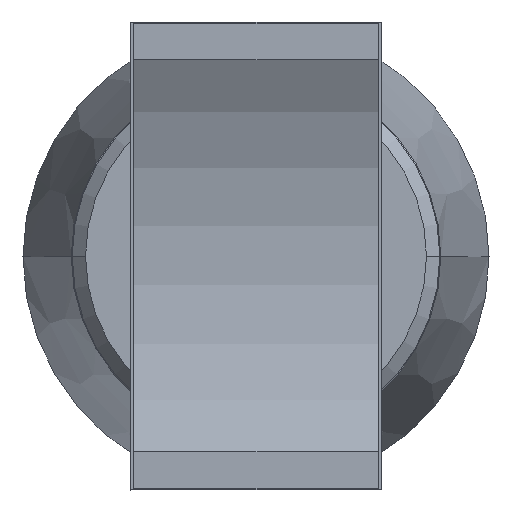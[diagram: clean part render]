
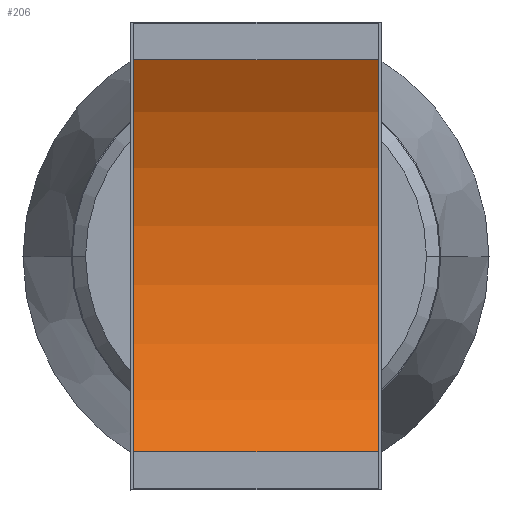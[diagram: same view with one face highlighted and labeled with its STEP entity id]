
A CAD part, top view. The second image highlights one B-rep face of the part: STEP entity #206.
In plain terms, the highlighted cylindrical face has radius 109.55 mm (diameter 219.1 mm), a partial arc.
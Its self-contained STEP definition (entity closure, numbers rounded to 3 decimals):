
#206=ADVANCED_FACE('',(#505),#506,.F.);
#505=FACE_OUTER_BOUND('',#935,.T.);
#506=CYLINDRICAL_SURFACE('',#936,109.55);
#935=EDGE_LOOP('',(#1339,#1340,#1341,#1342));
#936=AXIS2_PLACEMENT_3D('',#1343,#1344,#1345);
#1339=ORIENTED_EDGE('',*,*,#2472,.T.);
#1340=ORIENTED_EDGE('',*,*,#2473,.F.);
#1341=ORIENTED_EDGE('',*,*,#2474,.T.);
#1342=ORIENTED_EDGE('',*,*,#2469,.T.);
#1343=CARTESIAN_POINT('',(453.514,325.195,131.775));
#1344=DIRECTION('',(-1.0,0.,0.));
#1345=DIRECTION('',(0.,-1.0,0.));
#2469=EDGE_CURVE('',#2920,#2918,#2921,.T.);
#2472=EDGE_CURVE('',#2918,#2924,#2925,.T.);
#2473=EDGE_CURVE('',#2926,#2924,#2927,.T.);
#2474=EDGE_CURVE('',#2926,#2920,#2928,.T.);
#2918=VERTEX_POINT('',#3570);
#2920=VERTEX_POINT('',#3573);
#2921=LINE('',#3574,#3575);
#2924=VERTEX_POINT('',#3579);
#2925=CIRCLE('',#3580,109.55);
#2926=VERTEX_POINT('',#3581);
#2927=LINE('',#3582,#3583);
#2928=CIRCLE('',#3584,109.55);
#3570=CARTESIAN_POINT('',(380.514,383.81,39.225));
#3573=CARTESIAN_POINT('',(453.514,383.81,39.225));
#3574=CARTESIAN_POINT('',(453.514,383.81,39.225));
#3575=VECTOR('',#5125,1.0);
#3579=CARTESIAN_POINT('',(380.514,266.581,39.225));
#3580=AXIS2_PLACEMENT_3D('',#5127,#5128,#5129);
#3581=CARTESIAN_POINT('',(453.514,266.581,39.225));
#3582=CARTESIAN_POINT('',(453.514,266.581,39.225));
#3583=VECTOR('',#5130,1.0);
#3584=AXIS2_PLACEMENT_3D('',#5131,#5132,#5133);
#5125=DIRECTION('',(-1.0,0.,0.));
#5127=CARTESIAN_POINT('',(380.514,325.195,131.775));
#5128=DIRECTION('',(-1.0,0.,0.));
#5129=DIRECTION('',(0.,-1.0,0.));
#5130=DIRECTION('',(-1.0,0.,0.));
#5131=CARTESIAN_POINT('',(453.514,325.195,131.775));
#5132=DIRECTION('',(1.0,0.,0.));
#5133=DIRECTION('',(0.,-1.0,0.));
